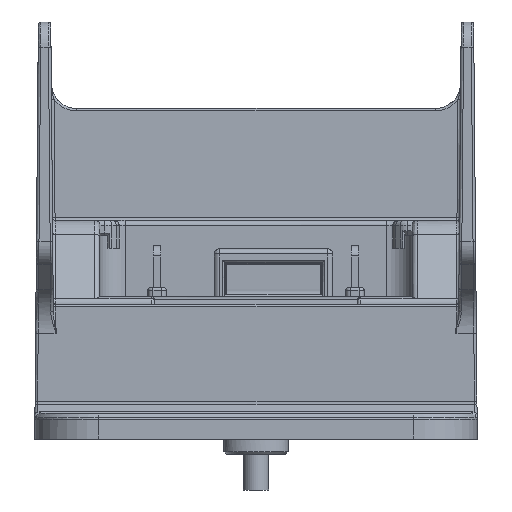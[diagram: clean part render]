
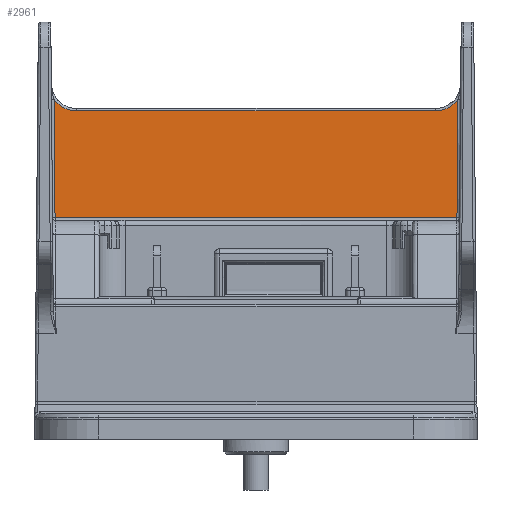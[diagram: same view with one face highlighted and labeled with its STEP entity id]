
A CAD part, left-side view. The second image highlights one B-rep face of the part: STEP entity #2961.
In plain terms, the highlighted planar face has unit normal (-1, 0, 0.009).
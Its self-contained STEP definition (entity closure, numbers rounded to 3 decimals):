
#661 = CARTESIAN_POINT ( 'NONE',  ( 50.004, 39.504, 20.996 ) ) ;
#2000 = ORIENTED_EDGE ( 'NONE', *, *, #47723, .F. ) ;
#2961 = ADVANCED_FACE ( 'NONE', ( #48342 ), #26614, .F. ) ;
#3093 = CARTESIAN_POINT ( 'NONE',  ( 50.188, -35.235, 42.004 ) ) ;
#3393 = ORIENTED_EDGE ( 'NONE', *, *, #61148, .F. ) ;
#7265 = CARTESIAN_POINT ( 'NONE',  ( 50.189, 36.106, 42.004 ) ) ;
#7269 = B_SPLINE_CURVE_WITH_KNOTS ( 'NONE', 3,
 ( #25112, #42352, #42594, #19663 ),
 .UNSPECIFIED., .F., .F.,
 ( 4, 4 ),
 ( 0., 1. ),
 .UNSPECIFIED. ) ;
#12590 = VECTOR ( 'NONE', #43039, 1000. ) ;
#17878 = CARTESIAN_POINT ( 'NONE',  ( 50.202, 39.201, 43.596 ) ) ;
#18244 = B_SPLINE_CURVE_WITH_KNOTS ( 'NONE', 3,
 ( #26232, #31444, #20537, #70054 ),
 .UNSPECIFIED., .F., .F.,
 ( 4, 4 ),
 ( 0., 1. ),
 .UNSPECIFIED. ) ;
#19663 = CARTESIAN_POINT ( 'NONE',  ( 50.208, -39.708, 44.303 ) ) ;
#20272 = ORIENTED_EDGE ( 'NONE', *, *, #51741, .F. ) ;
#20537 = CARTESIAN_POINT ( 'NONE',  ( 50.072, 39.572, 28.765 ) ) ;
#23051 = CARTESIAN_POINT ( 'NONE',  ( 50.188, 35.235, 42.004 ) ) ;
#23114 = CARTESIAN_POINT ( 'NONE',  ( 50.202, -39.201, 43.596 ) ) ;
#24029 = CARTESIAN_POINT ( 'NONE',  ( 50.208, 39.708, 44.303 ) ) ;
#24596 = CARTESIAN_POINT ( 'NONE',  ( 50.208, 39.708, 44.303 ) ) ;
#25112 = CARTESIAN_POINT ( 'NONE',  ( 50.004, -39.504, 20.996 ) ) ;
#25152 = VERTEX_POINT ( 'NONE', #41655 ) ;
#26071 = CARTESIAN_POINT ( 'NONE',  ( 50.188, -35.235, 42.004 ) ) ;
#26106 = VERTEX_POINT ( 'NONE', #29247 ) ;
#26232 = CARTESIAN_POINT ( 'NONE',  ( 50.208, 39.708, 44.303 ) ) ;
#26614 = PLANE ( 'NONE',  #67411 ) ;
#28362 = CARTESIAN_POINT ( 'NONE',  ( 50.189, -36.106, 42.004 ) ) ;
#28847 = CARTESIAN_POINT ( 'NONE',  ( 50.208, -39.708, 44.303 ) ) ;
#29247 = CARTESIAN_POINT ( 'NONE',  ( 50.208, -39.708, 44.303 ) ) ;
#29275 = CARTESIAN_POINT ( 'NONE',  ( 50.197, 38.524, 43.011 ) ) ;
#31444 = CARTESIAN_POINT ( 'NONE',  ( 50.14, 39.64, 36.534 ) ) ;
#34254 = CARTESIAN_POINT ( 'NONE',  ( 50.191, -36.976, 42.215 ) ) ;
#35402 = CARTESIAN_POINT ( 'NONE',  ( 50.191, 36.976, 42.215 ) ) ;
#39299 = VERTEX_POINT ( 'NONE', #661 ) ;
#39884 = CARTESIAN_POINT ( 'NONE',  ( 50.197, -38.524, 43.011 ) ) ;
#41113 = VECTOR ( 'NONE', #59477, 1000. ) ;
#41264 = CARTESIAN_POINT ( 'NONE',  ( 50.188, 35.235, 42.004 ) ) ;
#41655 = CARTESIAN_POINT ( 'NONE',  ( 50.004, -39.504, 20.996 ) ) ;
#42352 = CARTESIAN_POINT ( 'NONE',  ( 50.072, -39.572, 28.765 ) ) ;
#42510 = CARTESIAN_POINT ( 'NONE',  ( 50.004, 0., 20.996 ) ) ;
#42594 = CARTESIAN_POINT ( 'NONE',  ( 50.14, -39.64, 36.534 ) ) ;
#43039 = DIRECTION ( 'NONE',  ( 0., -1., 0. ) ) ;
#46975 = EDGE_CURVE ( 'NONE', #25152, #26106, #7269, .T. ) ;
#47723 = EDGE_CURVE ( 'NONE', #25152, #39299, #56089, .T. ) ;
#48342 = FACE_OUTER_BOUND ( 'NONE', #50689, .T. ) ;
#49244 = DIRECTION ( 'NONE',  ( 1., 0., -0.009 ) ) ;
#50016 = VERTEX_POINT ( 'NONE', #24596 ) ;
#50689 = EDGE_LOOP ( 'NONE', ( #63550, #3393, #20272, #55760, #2000, #70862 ) ) ;
#50709 = CARTESIAN_POINT ( 'NONE',  ( 50.188, -35.235, 42.004 ) ) ;
#51741 = EDGE_CURVE ( 'NONE', #50016, #71471, #71196, .T. ) ;
#55760 = ORIENTED_EDGE ( 'NONE', *, *, #70201, .T. ) ;
#56089 = LINE ( 'NONE', #42510, #41113 ) ;
#57528 = LINE ( 'NONE', #26071, #12590 ) ;
#58609 = VERTEX_POINT ( 'NONE', #3093 ) ;
#59477 = DIRECTION ( 'NONE',  ( 0., 1., 0. ) ) ;
#60755 = EDGE_CURVE ( 'NONE', #58609, #26106, #70550, .T. ) ;
#61148 = EDGE_CURVE ( 'NONE', #71471, #58609, #57528, .T. ) ;
#63550 = ORIENTED_EDGE ( 'NONE', *, *, #60755, .F. ) ;
#66219 = CARTESIAN_POINT ( 'NONE',  ( 50.106, 0., 32.649 ) ) ;
#67411 = AXIS2_PLACEMENT_3D ( 'NONE', #66219, #49244, #71651 ) ;
#70054 = CARTESIAN_POINT ( 'NONE',  ( 50.004, 39.504, 20.996 ) ) ;
#70201 = EDGE_CURVE ( 'NONE', #50016, #39299, #18244, .T. ) ;
#70550 = B_SPLINE_CURVE_WITH_KNOTS ( 'NONE', 3,
 ( #50709, #28362, #34254, #39884, #23114, #28847 ),
 .UNSPECIFIED., .F., .F.,
 ( 4, 2, 4 ),
 ( 0., 0.5, 1. ),
 .UNSPECIFIED. ) ;
#70862 = ORIENTED_EDGE ( 'NONE', *, *, #46975, .T. ) ;
#71196 = B_SPLINE_CURVE_WITH_KNOTS ( 'NONE', 3,
 ( #24029, #17878, #29275, #35402, #7265, #23051 ),
 .UNSPECIFIED., .F., .F.,
 ( 4, 2, 4 ),
 ( 0., 0.5, 1. ),
 .UNSPECIFIED. ) ;
#71471 = VERTEX_POINT ( 'NONE', #41264 ) ;
#71651 = DIRECTION ( 'NONE',  ( -0.009, 0., -1. ) ) ;
